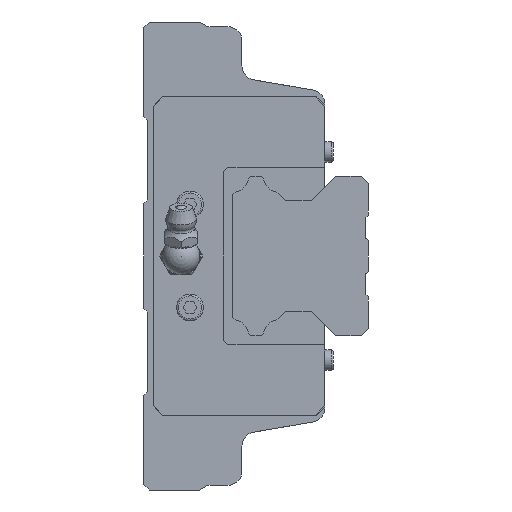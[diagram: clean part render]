
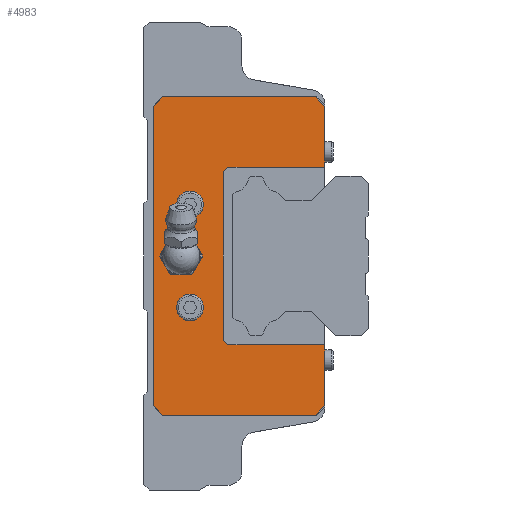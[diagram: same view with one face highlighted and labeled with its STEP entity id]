
A CAD part, left-side view. The second image highlights one B-rep face of the part: STEP entity #4983.
In plain terms, the highlighted planar face has unit normal (-1, 0, 0).
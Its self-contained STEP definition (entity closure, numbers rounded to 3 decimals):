
#243=CIRCLE('',#5421,3.);
#244=CIRCLE('',#5422,2.85);
#245=CIRCLE('',#5423,2.85);
#399=LINE('',#7359,#903);
#424=LINE('',#7415,#928);
#436=LINE('',#7441,#940);
#472=LINE('',#7517,#976);
#496=LINE('',#7563,#1000);
#520=LINE('',#7619,#1024);
#526=LINE('',#7636,#1030);
#659=LINE('',#8041,#1163);
#661=LINE('',#8044,#1165);
#668=LINE('',#8069,#1172);
#669=LINE('',#8072,#1173);
#670=LINE('',#8073,#1174);
#671=LINE('',#8075,#1175);
#672=LINE('',#8077,#1176);
#903=VECTOR('',#5951,1000.);
#928=VECTOR('',#5984,1000.);
#940=VECTOR('',#6004,1000.);
#976=VECTOR('',#6060,1000.);
#1000=VECTOR('',#6106,1000.);
#1024=VECTOR('',#6146,1000.);
#1030=VECTOR('',#6158,1000.);
#1163=VECTOR('',#6487,1000.);
#1165=VECTOR('',#6491,1000.);
#1172=VECTOR('',#6514,1000.);
#1173=VECTOR('',#6515,1000.);
#1174=VECTOR('',#6516,1000.);
#1175=VECTOR('',#6517,1000.);
#1176=VECTOR('',#6518,1000.);
#2158=ORIENTED_EDGE('',*,*,#3193,.T.);
#2159=ORIENTED_EDGE('',*,*,#3194,.F.);
#2160=ORIENTED_EDGE('',*,*,#3195,.F.);
#2161=ORIENTED_EDGE('',*,*,#3196,.T.);
#2162=ORIENTED_EDGE('',*,*,#3197,.T.);
#2163=ORIENTED_EDGE('',*,*,#2988,.F.);
#2164=ORIENTED_EDGE('',*,*,#3181,.T.);
#2165=ORIENTED_EDGE('',*,*,#2896,.F.);
#2166=ORIENTED_EDGE('',*,*,#2883,.F.);
#2167=ORIENTED_EDGE('',*,*,#2960,.F.);
#2168=ORIENTED_EDGE('',*,*,#2856,.F.);
#2169=ORIENTED_EDGE('',*,*,#2934,.F.);
#2170=ORIENTED_EDGE('',*,*,#3183,.T.);
#2171=ORIENTED_EDGE('',*,*,#2996,.F.);
#2172=ORIENTED_EDGE('',*,*,#3198,.T.);
#2173=ORIENTED_EDGE('',*,*,#3199,.T.);
#2174=ORIENTED_EDGE('',*,*,#3200,.T.);
#2856=EDGE_CURVE('',#3506,#3507,#399,.T.);
#2883=EDGE_CURVE('',#3533,#3534,#424,.T.);
#2896=EDGE_CURVE('',#3534,#3544,#436,.T.);
#2934=EDGE_CURVE('',#3573,#3506,#472,.T.);
#2960=EDGE_CURVE('',#3507,#3533,#496,.T.);
#2988=EDGE_CURVE('',#3608,#3609,#520,.T.);
#2996=EDGE_CURVE('',#3616,#3617,#526,.T.);
#3181=EDGE_CURVE('',#3608,#3544,#659,.T.);
#3183=EDGE_CURVE('',#3573,#3617,#661,.T.);
#3193=EDGE_CURVE('',#3758,#3758,#243,.T.);
#3194=EDGE_CURVE('',#3759,#3759,#244,.F.);
#3195=EDGE_CURVE('',#3760,#3760,#245,.F.);
#3196=EDGE_CURVE('',#3761,#3762,#668,.T.);
#3197=EDGE_CURVE('',#3762,#3609,#669,.T.);
#3198=EDGE_CURVE('',#3616,#3763,#670,.T.);
#3199=EDGE_CURVE('',#3763,#3764,#671,.T.);
#3200=EDGE_CURVE('',#3764,#3761,#672,.T.);
#3506=VERTEX_POINT('',#7358);
#3507=VERTEX_POINT('',#7360);
#3533=VERTEX_POINT('',#7414);
#3534=VERTEX_POINT('',#7416);
#3544=VERTEX_POINT('',#7442);
#3573=VERTEX_POINT('',#7516);
#3608=VERTEX_POINT('',#7618);
#3609=VERTEX_POINT('',#7620);
#3616=VERTEX_POINT('',#7635);
#3617=VERTEX_POINT('',#7637);
#3758=VERTEX_POINT('',#8064);
#3759=VERTEX_POINT('',#8066);
#3760=VERTEX_POINT('',#8068);
#3761=VERTEX_POINT('',#8070);
#3762=VERTEX_POINT('',#8071);
#3763=VERTEX_POINT('',#8074);
#3764=VERTEX_POINT('',#8076);
#4086=EDGE_LOOP('',(#2158));
#4087=EDGE_LOOP('',(#2159));
#4088=EDGE_LOOP('',(#2160));
#4089=EDGE_LOOP('',(#2161,#2162,#2163,#2164,#2165,#2166,#2167,#2168,#2169,
#2170,#2171,#2172,#2173,#2174));
#4453=FACE_BOUND('',#4086,.T.);
#4454=FACE_BOUND('',#4087,.T.);
#4455=FACE_BOUND('',#4088,.T.);
#4456=FACE_BOUND('',#4089,.T.);
#4743=PLANE('',#5420);
#4983=ADVANCED_FACE('',(#4453,#4454,#4455,#4456),#4743,.F.);
#5420=AXIS2_PLACEMENT_3D('',#8062,#6506,#6507);
#5421=AXIS2_PLACEMENT_3D('',#8063,#6508,#6509);
#5422=AXIS2_PLACEMENT_3D('',#8065,#6510,#6511);
#5423=AXIS2_PLACEMENT_3D('',#8067,#6512,#6513);
#5951=DIRECTION('',(0.,0.707,0.707));
#5984=DIRECTION('',(0.,-0.707,0.707));
#6004=DIRECTION('',(0.,-1.,0.));
#6060=DIRECTION('',(0.,1.,0.));
#6106=DIRECTION('',(0.,0.,1.));
#6146=DIRECTION('',(0.,0.,-1.));
#6158=DIRECTION('',(0.,0.,-1.));
#6487=DIRECTION('',(0.,0.707,0.707));
#6491=DIRECTION('',(0.,-0.707,0.707));
#6506=DIRECTION('',(1.,0.,0.));
#6507=DIRECTION('',(0.,0.,-1.));
#6508=DIRECTION('',(1.,0.,0.));
#6509=DIRECTION('',(0.,0.,-1.));
#6510=DIRECTION('',(1.,0.,0.));
#6511=DIRECTION('',(0.,0.,-1.));
#6512=DIRECTION('',(1.,0.,0.));
#6513=DIRECTION('',(0.,0.,-1.));
#6514=DIRECTION('',(0.,-0.707,0.707));
#6515=DIRECTION('',(0.,-1.,0.));
#6516=DIRECTION('',(0.,1.,0.));
#6517=DIRECTION('',(0.,0.707,0.707));
#6518=DIRECTION('',(0.,0.,1.));
#7358=CARTESIAN_POINT('',(-54.,36.5,-34.));
#7359=CARTESIAN_POINT('',(-54.,36.5,-34.));
#7360=CARTESIAN_POINT('',(-54.,38.5,-32.));
#7414=CARTESIAN_POINT('',(-54.,38.5,32.));
#7415=CARTESIAN_POINT('',(-54.,38.5,32.));
#7416=CARTESIAN_POINT('',(-54.,36.5,34.));
#7441=CARTESIAN_POINT('',(-54.,40.5,34.));
#7442=CARTESIAN_POINT('',(-54.,3.783,34.));
#7516=CARTESIAN_POINT('',(-54.,3.783,-34.));
#7517=CARTESIAN_POINT('',(-54.,0.,-34.));
#7563=CARTESIAN_POINT('',(-54.,38.5,-32.));
#7618=CARTESIAN_POINT('',(-54.,1.783,32.));
#7619=CARTESIAN_POINT('',(-54.,1.783,32.478));
#7620=CARTESIAN_POINT('',(-54.,1.783,19.));
#7635=CARTESIAN_POINT('',(-54.,1.783,-19.));
#7636=CARTESIAN_POINT('',(-54.,1.783,32.478));
#7637=CARTESIAN_POINT('',(-54.,1.783,-32.));
#8041=CARTESIAN_POINT('',(-54.,3.783,34.));
#8044=CARTESIAN_POINT('',(-54.,1.783,-32.));
#8062=CARTESIAN_POINT('',(-54.,0.,0.));
#8063=CARTESIAN_POINT('',(-54.,32.5,0.));
#8064=CARTESIAN_POINT('',(-54.,32.5,-3.));
#8065=CARTESIAN_POINT('',(-54.,30.6,11.));
#8066=CARTESIAN_POINT('',(-54.,30.6,8.15));
#8067=CARTESIAN_POINT('',(-54.,30.6,-11.));
#8068=CARTESIAN_POINT('',(-54.,30.6,-13.85));
#8069=CARTESIAN_POINT('',(-54.,23.5,18.));
#8070=CARTESIAN_POINT('',(-54.,23.5,18.));
#8071=CARTESIAN_POINT('',(-54.,22.5,19.));
#8072=CARTESIAN_POINT('',(-54.,22.5,19.));
#8073=CARTESIAN_POINT('',(-54.,1.783,-19.));
#8074=CARTESIAN_POINT('',(-54.,22.5,-19.));
#8075=CARTESIAN_POINT('',(-54.,22.5,-19.));
#8076=CARTESIAN_POINT('',(-54.,23.5,-18.));
#8077=CARTESIAN_POINT('',(-54.,23.5,-18.));
